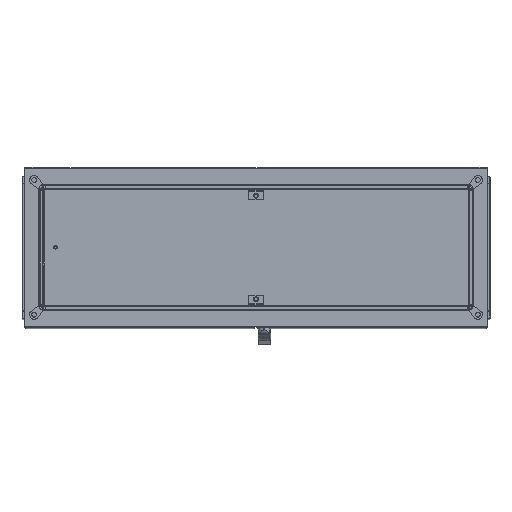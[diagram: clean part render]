
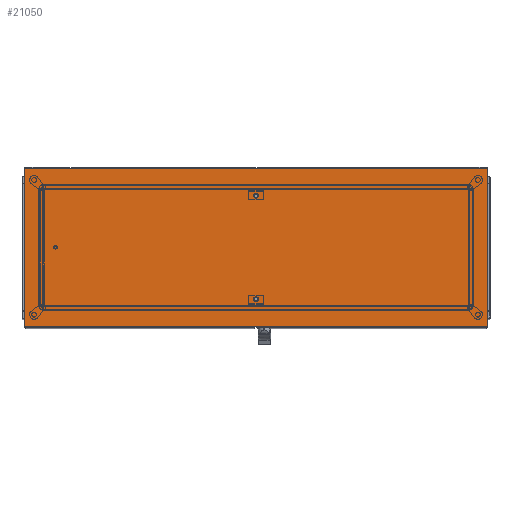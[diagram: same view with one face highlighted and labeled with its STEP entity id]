
A CAD part, top view. The second image highlights one B-rep face of the part: STEP entity #21050.
In plain terms, the highlighted planar face has unit normal (0, 0, 1) as drawn and (0, -1, 0) by its records, which use the part's own axes.
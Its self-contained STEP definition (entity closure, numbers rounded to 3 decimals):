
#1348=CIRCLE('',#22977,6.318);
#1349=CIRCLE('',#22978,6.318);
#6032=ORIENTED_EDGE('',*,*,#9952,.F.);
#6033=ORIENTED_EDGE('',*,*,#9965,.F.);
#6034=ORIENTED_EDGE('',*,*,#9911,.F.);
#6035=ORIENTED_EDGE('',*,*,#9958,.F.);
#6036=ORIENTED_EDGE('',*,*,#9972,.F.);
#6037=ORIENTED_EDGE('',*,*,#9973,.F.);
#9911=EDGE_CURVE('',#12217,#12218,#14263,.T.);
#9952=EDGE_CURVE('',#12252,#12253,#14293,.T.);
#9958=EDGE_CURVE('',#12253,#12217,#14298,.T.);
#9965=EDGE_CURVE('',#12218,#12252,#14305,.T.);
#9972=EDGE_CURVE('',#12266,#12266,#1348,.T.);
#9973=EDGE_CURVE('',#12267,#12267,#1349,.T.);
#12217=VERTEX_POINT('',#34681);
#12218=VERTEX_POINT('',#34683);
#12252=VERTEX_POINT('',#34761);
#12253=VERTEX_POINT('',#34763);
#12266=VERTEX_POINT('',#34799);
#12267=VERTEX_POINT('',#34801);
#14263=LINE('',#34682,#16332);
#14293=LINE('',#34762,#16362);
#14298=LINE('',#34774,#16367);
#14305=LINE('',#34786,#16374);
#16332=VECTOR('',#27953,1000.);
#16362=VECTOR('',#28013,1000.);
#16367=VECTOR('',#28022,1000.);
#16374=VECTOR('',#28031,1000.);
#17837=EDGE_LOOP('',(#6032,#6033,#6034,#6035));
#17838=EDGE_LOOP('',(#6036));
#17839=EDGE_LOOP('',(#6037));
#19140=FACE_BOUND('',#17837,.T.);
#19141=FACE_BOUND('',#17838,.T.);
#19142=FACE_BOUND('',#17839,.T.);
#20010=PLANE('',#22976);
#21050=ADVANCED_FACE('',(#19140,#19141,#19142),#20010,.F.);
#22976=AXIS2_PLACEMENT_3D('',#34797,#28038,#28039);
#22977=AXIS2_PLACEMENT_3D('',#34798,#28040,#28041);
#22978=AXIS2_PLACEMENT_3D('',#34800,#28042,#28043);
#27953=DIRECTION('',(1.,0.,0.));
#28013=DIRECTION('',(-1.,0.,0.));
#28022=DIRECTION('',(0.,0.,1.));
#28031=DIRECTION('',(0.,0.,-1.));
#28038=DIRECTION('',(0.,1.,0.));
#28039=DIRECTION('',(0.,0.,1.));
#28040=DIRECTION('',(0.,-1.,0.));
#28041=DIRECTION('',(0.,0.,-1.));
#28042=DIRECTION('',(0.,-1.,0.));
#28043=DIRECTION('',(0.,0.,-1.));
#34681=CARTESIAN_POINT('',(-599.5,0.,205.5));
#34682=CARTESIAN_POINT('',(-599.5,0.,205.5));
#34683=CARTESIAN_POINT('',(599.5,0.,205.5));
#34761=CARTESIAN_POINT('',(599.5,0.,-205.5));
#34762=CARTESIAN_POINT('',(599.5,0.,-205.5));
#34763=CARTESIAN_POINT('',(-599.5,0.,-205.5));
#34774=CARTESIAN_POINT('',(-599.5,0.,-205.5));
#34786=CARTESIAN_POINT('',(599.5,0.,205.5));
#34797=CARTESIAN_POINT('',(0.,0.,0.));
#34798=CARTESIAN_POINT('',(0.,0.,134.));
#34799=CARTESIAN_POINT('',(0.,0.,127.682));
#34800=CARTESIAN_POINT('',(0.,0.,-134.));
#34801=CARTESIAN_POINT('',(0.,0.,-140.318));
